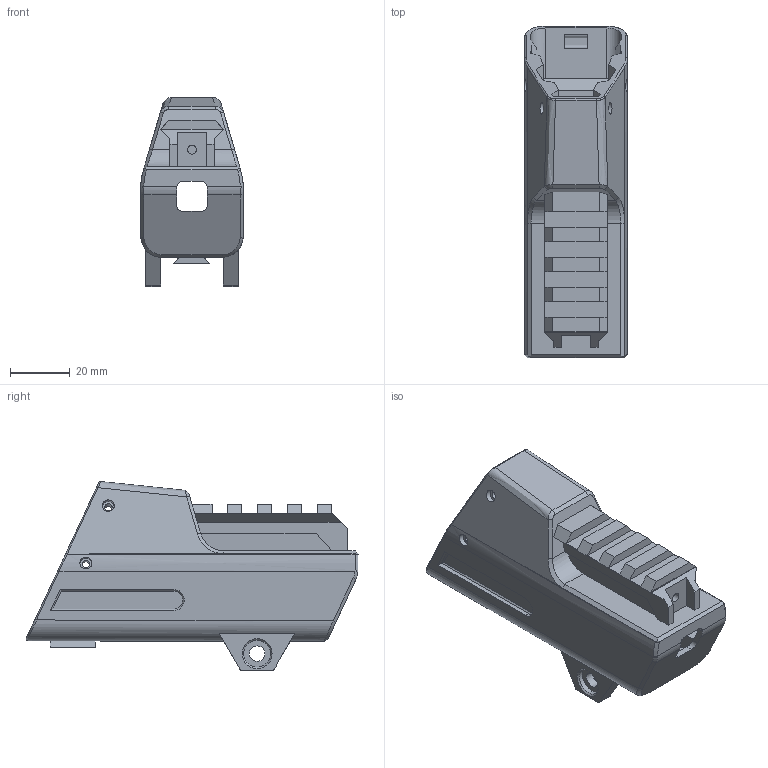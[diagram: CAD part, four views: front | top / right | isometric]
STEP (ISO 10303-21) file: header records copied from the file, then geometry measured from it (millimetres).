
FILE_DESCRIPTION(('HOOPS Exchange Step'),'2;1');
FILE_NAME('/private/var/mobile/Containers/Data/Application/4B1A7BF2-BF60-4167-B720-BE744F57E5F5/tmp/export/temp_export','2026-08-15T11:31:51-05:00',('mobile'),('Shapr3D Limited'),'HOOPS Exchange 2026.3','Shapr3D','Authorized');
FILE_SCHEMA( ('AP242_MANAGED_MODEL_BASED_3D_ENGINEERING_MIM_LF {1 0 10303 442 1 1 4}') );
Length unit declared in the file: millimetre
Products named in the file (4): Display; Display.step; Top Electronics; root
Assembly tree (3 placements, depth 4):
  root
    Top Electronics
      Display.step
        Display
Bounding box: 34.26 x 111.03 x 63.21 mm (x, y, z)
Volume: 61074.2 mm3; surface area: 31856.3 mm2
Topology: 1 solids, 1 shells, 289 faces, 774 edges, 498 vertices
Faces by surface type: plane 180, cylinder 55, bspline 48, cone 6
Full cylindrical faces by diameter (mm): 2.5 x4, 3 x1, 3.2 x1, 4 x4, 5 x1, 5.2 x2, 8.455 x1, 9 x2
Entity records: 12718 total; most frequent: CARTESIAN_POINT 5762, ORIENTED_EDGE 1544, DIRECTION 1205, EDGE_CURVE 772, VECTOR 509, LINE 509, VERTEX_POINT 498, AXIS2_PLACEMENT_3D 348
